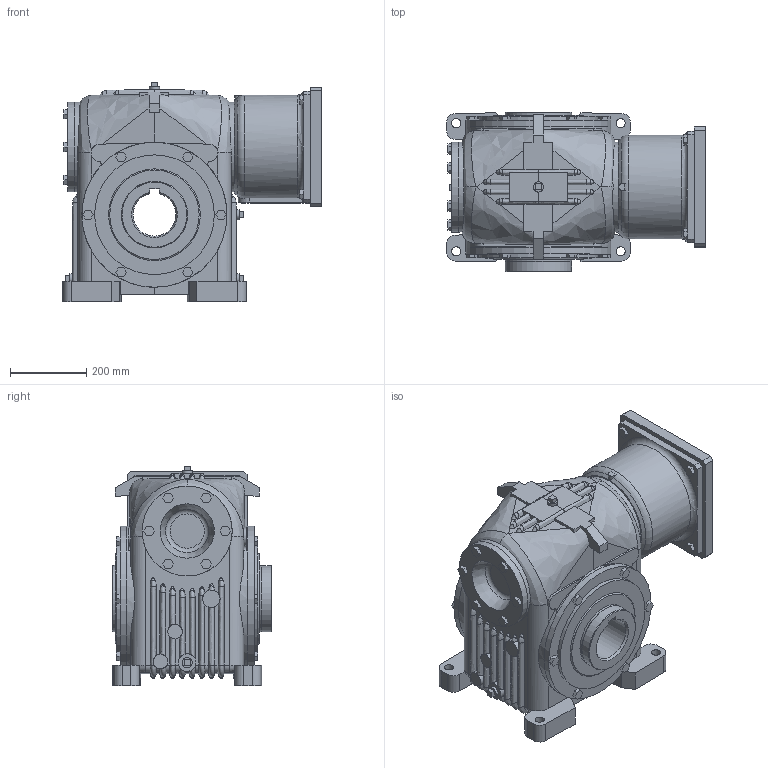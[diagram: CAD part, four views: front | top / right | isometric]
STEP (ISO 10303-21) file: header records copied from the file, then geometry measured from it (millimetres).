
FILE_DESCRIPTION(/* description */ ('Unknown'),/* implementation_level */ '2;1');
FILE_NAME(/* name */ 'O70CV-1-D01SBD-',/* time_stamp */ '2024-11-21T16:01:15-05:00',/* author */ ('Unknown'),/* organization */ ('Unknown'),/* preprocessor_version */ 'ST-DEVELOPER v19.4',/* originating_system */ 'Solid Edge',/* authorisation */ 'Unknown');
FILE_SCHEMA (('AUTOMOTIVE_DESIGN {1 0 10303 214 3 1 1}'));
Length unit declared in the file: millimetre
Products named in the file (8): O70CV-1-D01SBD-; 70-1-CP; 70-OUTHS-4437; 70-OUTH-4437; 70-WCAP; 70-SM20-4-CP; MP5D-01-CP; KM600-S-48
Assembly tree (7 placements, depth 2):
  O70CV-1-D01SBD-
    70-1-CP
    70-OUTHS-4437
    70-OUTH-4437
    70-WCAP
    70-SM20-4-CP
    MP5D-01-CP
    KM600-S-48
Bounding box: 679.88 x 419.1 x 576.01 mm (x, y, z)
Volume: 69109825.5 mm3; surface area: 3465702.9 mm2
Topology: 7 solids, 8 shells, 711 faces, 1818 edges, 1202 vertices
Faces by surface type: plane 453, cylinder 123, bspline 120, cone 9, torus 6
Full cylindrical faces by diameter (mm): 0.254 x5, 13.835 x4, 15.875 x8, 23.812 x10, 26.924 x4, 38.1 x4, 44.45 x1, 45.72 x4, 47.625 x1, 94.5 x1, 106.68 x1, 122 x1, 154 x1, 171.45 x1, 171.475 x1, 171.958 x1, 171.983 x1, 173.863 x3, 174.625 x4, 175.133 x2, 177.8 x1, 177.825 x1, 178.308 x1, 234.955 x2, 236.22 x3, 250 x1, 254 x1, 269.875 x2, 314.325 x2, 381 x4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
Entity records: 37708 total; most frequent: CARTESIAN_POINT 19822, ORIENTED_EDGE 3400, DIRECTION 2820, EDGE_CURVE 1700, VERTEX_POINT 1172, AXIS2_PLACEMENT_3D 946, LINE 928, VECTOR 928
